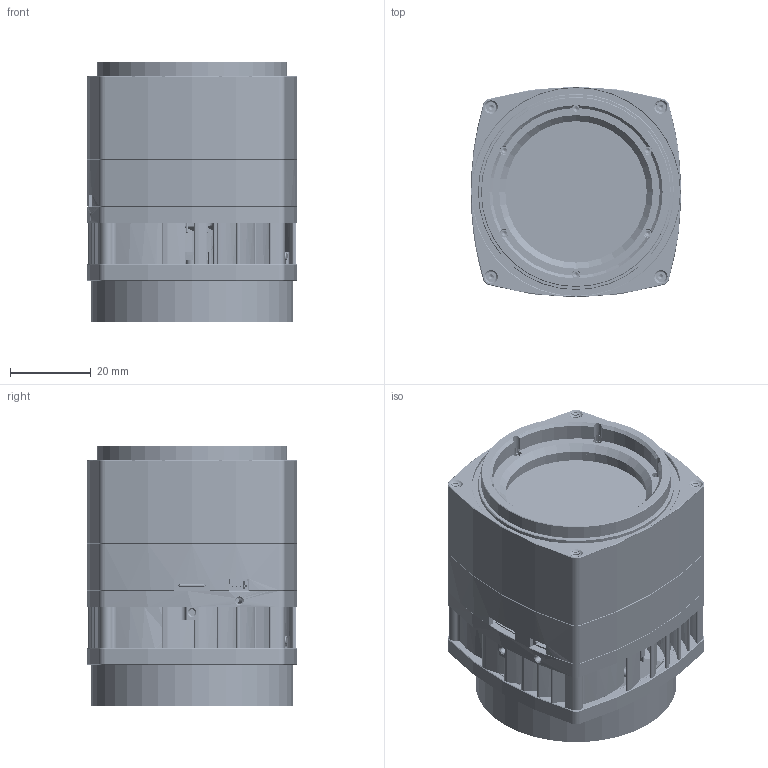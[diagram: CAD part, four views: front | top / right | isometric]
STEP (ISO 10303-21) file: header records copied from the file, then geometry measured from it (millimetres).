
FILE_DESCRIPTION(/* description */ (''),/* implementation_level */ '2;1');
FILE_NAME(/* name */ 'STP-MJ-(MJ042MR-GP-P6-BSI)-Tmount.stp',/* time_stamp */ '2021-09-22T16:54:24+02:00',/* author */ (''),/* organization */ (''),/* preprocessor_version */ 'ST-DEVELOPER v16.7',/* originating_system */ 'SIEMENS PLM Software NX 1907',/* authorisation */ '');
FILE_SCHEMA (('AUTOMOTIVE_DESIGN { 1 0 10303 214 3 1 1 1 }'));
Products named in the file (34): SROB-M1.6X3-CSK-TX-CUST; MECH-MJ-52MM-T-MOUNT-A; CONN-815-22-004-30-001101; DF40HC_4.0_-60DS_stp; SM03B-SRSS-TB_step; 1054500101_stp; Board-CM-U3-PCA; GSENSE2020-BODY; R-32207615; MJ-52MM-FAN-50X15MM-CUST1; CONN-319-10-104-CUT; SROB-M1.6X20-CSK-TX-STNLS; MECH-MJ-52MM-COOL-CVR; MECH-MJ-52MM-COOL-HTS; FOIL-IND-20X20X0.1MM; MECH-LIGHTPIPE-1X2.5MM-CUST; DF40-60-EXT-1.5MM-PCA; PELT-2MDX06-138-0510AN; TP-11X11X0.08-TPCM580; MECH-MJ042-INC; PCB-MJ-PLT; SROB-M1.6X3-CSK-TX-STNLS; SROB-M1.6X6-CUST-R-PEEK; SROB-M1.6X6-CUST-PEEK; CM2020-PCA; SROB-M1.6X12-CSK-TX-CUST; MECH-MJ-52MM-MID-CU; FLT-SPH-AR2X-D35X1; MECH-MJ-52MM-FRONT-STNLS; LA-MJ042-T-MOUNT-A; CM-U3-PCA; GSENSE2020BSI; MJ-52MM-COOL-SUBASSM; MJ042MR-GP-P6-B-MAIN-SUBA
Assembly tree (52 placements, depth 3):
  MJ042MR-GP-P6-B-MAIN-SUBA
    MECH-MJ-52MM-FRONT-STNLS
    FLT-SPH-AR2X-D35X1
    MECH-MJ-52MM-MID-CU
    MJ-52MM-COOL-SUBASSM
      MECH-MJ-52MM-COOL-HTS
      MECH-MJ-52MM-COOL-CVR
      SROB-M1.6X20-CSK-TX-STNLS  x4
      CONN-319-10-104-CUT
      MJ-52MM-FAN-50X15MM-CUST1
      R-32207615
    SROB-M1.6X12-CSK-TX-CUST  x4
    GSENSE2020BSI
      GSENSE2020-BODY
    CM2020-PCA
    SROB-M1.6X6-CUST-PEEK  x2
    SROB-M1.6X6-CUST-R-PEEK  x2
    CM-U3-PCA
      Board-CM-U3-PCA
      1054500101_stp
      SM03B-SRSS-TB_step
      DF40HC_4.0_-60DS_stp
      CONN-815-22-004-30-001101
    SROB-M1.6X3-CSK-TX-STNLS  x4
    PCB-MJ-PLT
    MECH-MJ042-INC
    TP-11X11X0.08-TPCM580  x2
    PELT-2MDX06-138-0510AN
    DF40-60-EXT-1.5MM-PCA
    MECH-LIGHTPIPE-1X2.5MM-CUST  x3
    FOIL-IND-20X20X0.1MM
    LA-MJ042-T-MOUNT-A
      MECH-MJ-52MM-T-MOUNT-A
      SROB-M1.6X3-CSK-TX-CUST  x6
Bounding box: 52.1 x 52.1 x 64.42 mm (x, y, z)
Volume: 68199.7 mm3; surface area: 74306.4 mm2
Topology: 176 solids, 179 shells, 12283 faces, 31286 edges, 20081 vertices
Faces by surface type: plane 5721, cylinder 3703, cone 1217, torus 1163, bspline 445, sphere 20, extrusion 14
Full cylindrical faces by diameter (mm): 0.3 x155, 0.35 x15, 0.44 x34, 0.51 x119, 0.7 x119, 0.71 x119, 0.8 x12, 0.859 x119, 0.97 x238, 1 x3, 1.07 x119, 1.25 x2, 1.3 x10, 1.6 x56, 1.9 x8, 2.1 x6, 2.5 x64, 2.9 x4, 2.95 x8, 3 x8, 3.2 x4, 18 x1, 33.8 x1, 35 x2, 35.04 x1, 35.7 x1, 36 x1, 36.2 x1, 39.2 x1, 42.7 x1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
Entity records: 434290 total; most frequent: CARTESIAN_POINT 157154, DIRECTION 56386, ORIENTED_EDGE 53178, EDGE_CURVE 26589, AXIS2_PLACEMENT_3D 20306, VERTEX_POINT 18593, EDGE_LOOP 15931, VECTOR 15774
